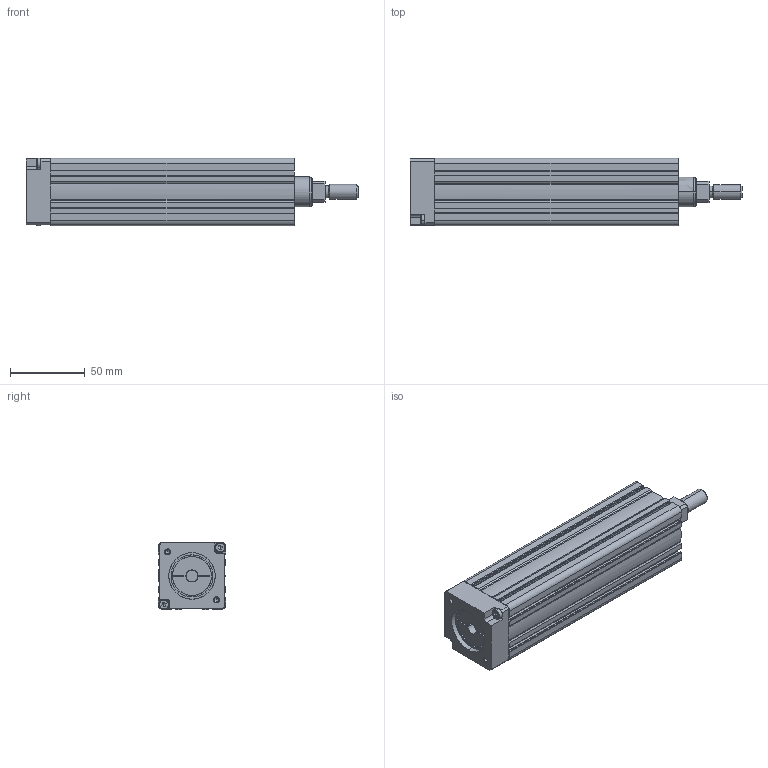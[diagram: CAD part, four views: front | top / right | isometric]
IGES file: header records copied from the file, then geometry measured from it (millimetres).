
Start section: SolidWorks IGES file using analytic representation for surfaces
Global section: file name: C:\Users\render\Documents\CAD Files\Integrated-Actuators\RD-Series\RD-45T\RD-45T-50.IGS; native system: SolidWorks 2009; preprocessor: SolidWorks 2009; author: render; date: 100614.133753; units: millimetre
Bounding box: 221.5 x 45 x 45.1 mm (x, y, z)
Surface area: 67290.5 mm2 (no closed solid volume)
Topology: 0 solids, 0 shells, 345 faces, 3507 edges, 3499 vertices
Faces by surface type: bspline 204, revolution 141
